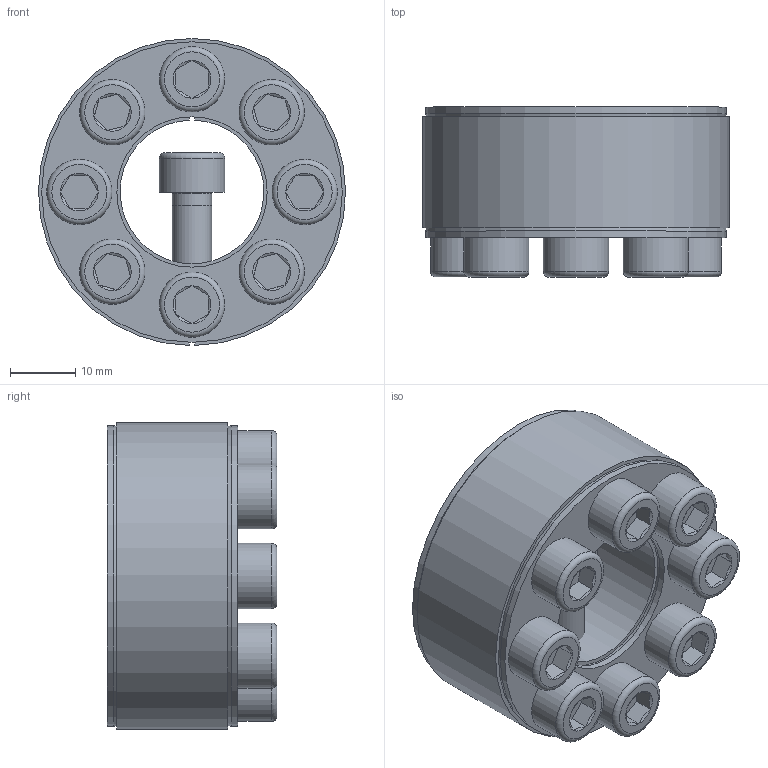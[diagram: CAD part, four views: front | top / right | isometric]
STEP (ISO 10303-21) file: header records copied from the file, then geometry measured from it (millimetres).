
FILE_DESCRIPTION( ( 'Unknown' ), '1' );
FILE_NAME( 'C:/Dokumente und Einstellungen/Sven/Desktop/homepage/cad - homepage/KBS40/KBS 40 - 22 x 47.stp', 'Unknown', ( 'Unknown' ), ( 'Unknown' ), 'XStep 1.0', 'Unknown', ' ' );
FILE_SCHEMA( ( 'automotive_design' ) );
Length unit declared in the file: millimetre
Products named in the file (10): Assem1; KBS 40 22x47; ISO 4762 M6x18; ISO 4762 M6x18-oa0; ISO 4762 M6x18-oa1; ISO 4762 M6x18-oa2; ISO 4762 M6x18-oa3; ISO 4762 M6x18-oa4; ISO 4762 M6x18-oa5; ISO 4762 M6x18-oa6
Bounding box: 47 x 26 x 47 mm (x, y, z)
Surface area: 31237.4 mm2
Topology: 18 solids, 18 shells, 476 faces, 892 edges, 516 vertices
Faces by surface type: plane 232, cone 120, cylinder 92, torus 32
Full cylindrical faces by diameter (mm): 5 x16, 6 x48, 10 x16, 23 x4, 46 x4
Entity records: 5975 total; most frequent: CARTESIAN_POINT 1212, DIRECTION 976, ORIENTED_EDGE 712, AXIS2_PLACEMENT_3D 420, EDGE_LOOP 360, EDGE_CURVE 356, FACE_OUTER_BOUND 298, VERTEX_POINT 240
